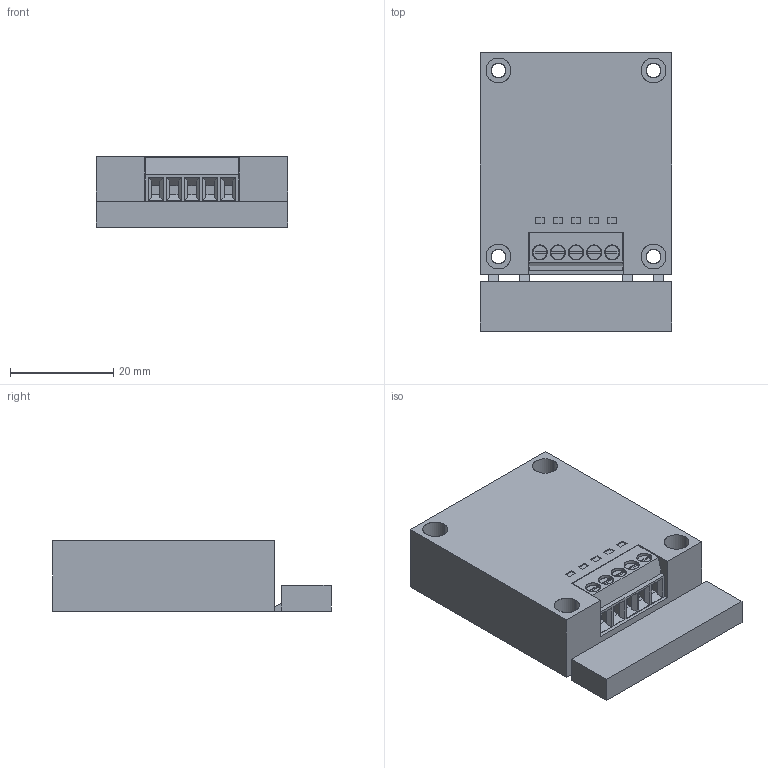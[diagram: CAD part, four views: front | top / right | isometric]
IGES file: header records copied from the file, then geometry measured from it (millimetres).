
Global section: preprocessor: SolidWorks 2008; organization: PanasonicElectricWorks; date: 090828.104928; units: millimetre
Bounding box: 37 x 53.8 x 13.6 mm (x, y, z)
Surface area: 7593.2 mm2 (no closed solid volume)
Topology: 0 solids, 0 shells, 188 faces, 1948 edges, 1948 vertices
Faces by surface type: bspline 152, revolution 36
